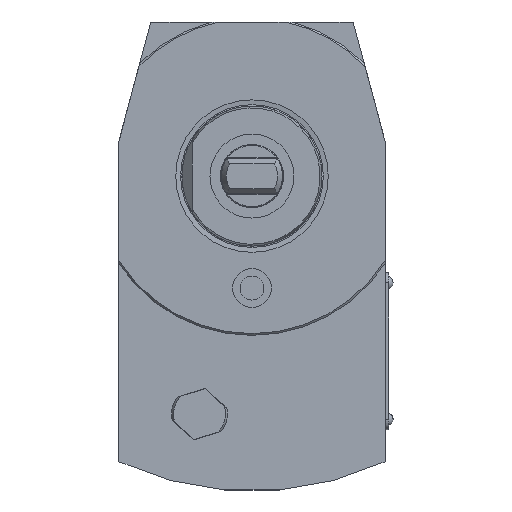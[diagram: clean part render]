
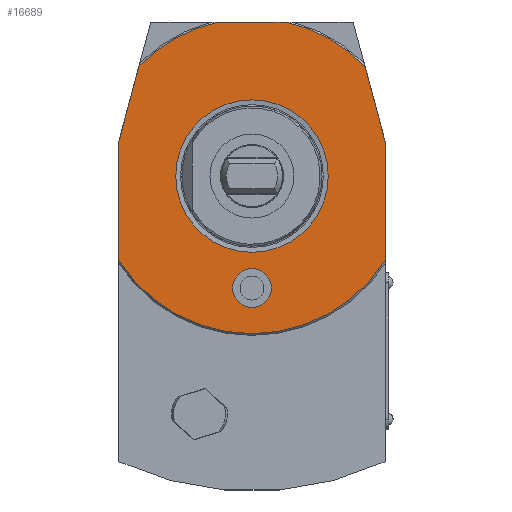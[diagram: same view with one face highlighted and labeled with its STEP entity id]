
A CAD part, left-side view. The second image highlights one B-rep face of the part: STEP entity #16689.
In plain terms, the highlighted planar face has unit normal (-1, 0, 0) as drawn and (0, 1, 0) by its records, which use the part's own axes.
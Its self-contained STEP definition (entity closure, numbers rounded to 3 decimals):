
#389=VECTOR('',#6733,1.);
#396=VECTOR('',#6744,1.);
#397=VECTOR('',#6745,1.);
#398=VECTOR('',#6748,1.);
#399=VECTOR('',#6751,1.);
#717=LINE('',#14821,#389);
#724=LINE('',#14838,#396);
#725=LINE('',#14840,#397);
#726=LINE('',#14843,#398);
#727=LINE('',#14847,#399);
#937=PLANE('',#16192);
#2466=ORIENTED_EDGE('',*,*,#4335,.F.);
#2467=ORIENTED_EDGE('',*,*,#4336,.F.);
#2468=ORIENTED_EDGE('',*,*,#4337,.F.);
#2469=ORIENTED_EDGE('',*,*,#4327,.F.);
#2470=ORIENTED_EDGE('',*,*,#4338,.F.);
#2471=ORIENTED_EDGE('',*,*,#4339,.F.);
#2472=ORIENTED_EDGE('',*,*,#4340,.F.);
#2473=ORIENTED_EDGE('',*,*,#4341,.F.);
#2474=ORIENTED_EDGE('',*,*,#4342,.T.);
#2475=ORIENTED_EDGE('',*,*,#4343,.T.);
#3114=CIRCLE('',#16193,45.);
#3115=CIRCLE('',#16194,45.);
#3116=CIRCLE('',#16195,45.);
#3117=CIRCLE('',#16196,5.55);
#3118=CIRCLE('',#16197,21.765);
#3584=VERTEX_POINT('',#14819);
#3585=VERTEX_POINT('',#14820);
#3592=VERTEX_POINT('',#14836);
#3593=VERTEX_POINT('',#14837);
#3594=VERTEX_POINT('',#14839);
#3595=VERTEX_POINT('',#14842);
#3596=VERTEX_POINT('',#14844);
#3597=VERTEX_POINT('',#14846);
#3598=VERTEX_POINT('',#14849);
#3599=VERTEX_POINT('',#14851);
#4327=EDGE_CURVE('',#3584,#3585,#717,.T.);
#4335=EDGE_CURVE('',#3592,#3593,#724,.T.);
#4336=EDGE_CURVE('',#3594,#3592,#725,.T.);
#4337=EDGE_CURVE('',#3585,#3594,#3114,.T.);
#4338=EDGE_CURVE('',#3595,#3584,#726,.T.);
#4339=EDGE_CURVE('',#3596,#3595,#3115,.T.);
#4340=EDGE_CURVE('',#3597,#3596,#727,.T.);
#4341=EDGE_CURVE('',#3593,#3597,#3116,.T.);
#4342=EDGE_CURVE('',#3598,#3598,#3117,.T.);
#4343=EDGE_CURVE('',#3599,#3599,#3118,.T.);
#4881=EDGE_LOOP('',(#2466,#2467,#2468,#2469,#2470,#2471,#2472,#2473));
#4882=EDGE_LOOP('',(#2474));
#4883=EDGE_LOOP('',(#2475));
#5352=FACE_BOUND('',#4881,.T.);
#5353=FACE_BOUND('',#4882,.T.);
#5354=FACE_BOUND('',#4883,.T.);
#6733=DIRECTION('',(-34.104,0.,0.));
#6742=DIRECTION('',(0.,1.,0.));
#6743=DIRECTION('',(1.,0.,0.));
#6744=DIRECTION('',(21.355,0.,5.722));
#6745=DIRECTION('',(34.104,0.,0.));
#6746=DIRECTION('',(0.,-1.,0.));
#6747=DIRECTION('',(35.552,0.,27.587));
#6748=DIRECTION('',(-21.355,0.,5.722));
#6749=DIRECTION('',(0.,-1.,0.));
#6750=DIRECTION('',(36.181,0.,-26.757));
#6751=DIRECTION('',(0.,0.,18.868));
#6752=DIRECTION('',(0.,-1.,0.));
#6753=DIRECTION('',(35.552,0.,27.587));
#6754=DIRECTION('',(0.,-1.,0.));
#6755=DIRECTION('',(0.,0.,5.55));
#6756=DIRECTION('',(0.,-1.,0.));
#6757=DIRECTION('',(0.,0.,21.765));
#14819=CARTESIAN_POINT('',(10.,0.,38.));
#14820=CARTESIAN_POINT('',(-24.104,0.,38.));
#14821=CARTESIAN_POINT('',(10.,0.,38.));
#14835=CARTESIAN_POINT('',(0.,0.,21.765));
#14836=CARTESIAN_POINT('',(10.,0.,-38.));
#14837=CARTESIAN_POINT('',(31.355,0.,-32.278));
#14838=CARTESIAN_POINT('',(10.,0.,-38.));
#14839=CARTESIAN_POINT('',(-24.104,0.,-38.));
#14840=CARTESIAN_POINT('',(-24.104,0.,-38.));
#14841=CARTESIAN_POINT('',(0.,0.,0.));
#14842=CARTESIAN_POINT('',(31.355,0.,32.278));
#14843=CARTESIAN_POINT('',(31.355,0.,32.278));
#14844=CARTESIAN_POINT('',(44.,0.,9.434));
#14845=CARTESIAN_POINT('',(0.,0.,0.));
#14846=CARTESIAN_POINT('',(44.,0.,-9.434));
#14847=CARTESIAN_POINT('',(44.,0.,-9.434));
#14848=CARTESIAN_POINT('',(0.,0.,0.));
#14849=CARTESIAN_POINT('',(-32.,0.,5.55));
#14850=CARTESIAN_POINT('',(-32.,0.,0.));
#14851=CARTESIAN_POINT('',(0.,0.,21.765));
#14852=CARTESIAN_POINT('',(0.,0.,0.));
#16192=AXIS2_PLACEMENT_3D('',#14835,#6742,#6743);
#16193=AXIS2_PLACEMENT_3D('',#14841,#6746,#6747);
#16194=AXIS2_PLACEMENT_3D('',#14845,#6749,#6750);
#16195=AXIS2_PLACEMENT_3D('',#14848,#6752,#6753);
#16196=AXIS2_PLACEMENT_3D('',#14850,#6754,#6755);
#16197=AXIS2_PLACEMENT_3D('',#14852,#6756,#6757);
#16689=ADVANCED_FACE('',(#5352,#5353,#5354),#937,.T.);
